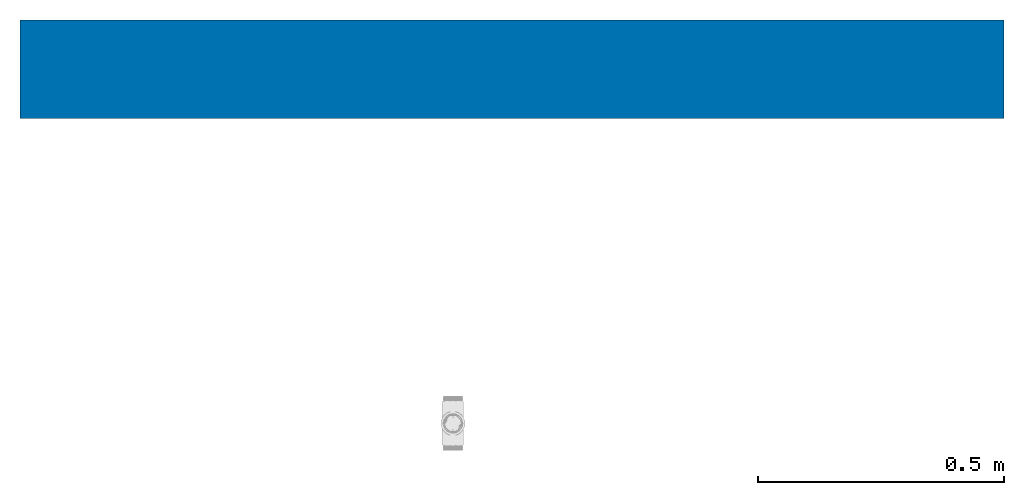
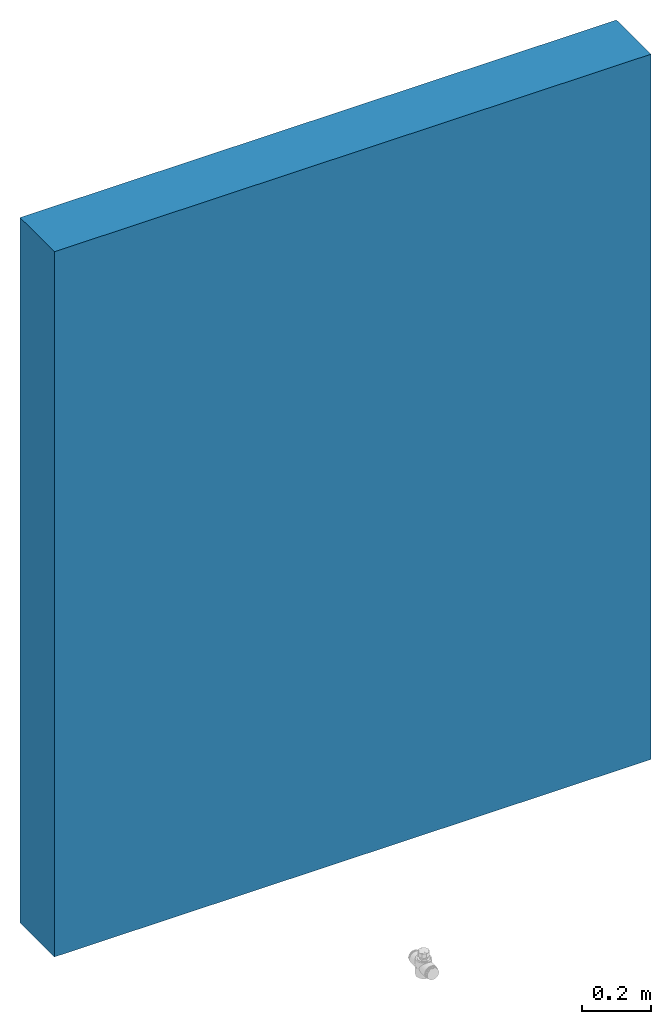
# One storey, incomplete: 1 wall.
"""IFC2X3 building model written with IfcOpenShell, lengths in millimetres."""

from ifc_helpers import new_model, entity, si_unit, converted_unit, frame, frame_2d, origin, place, context, project, spatial, rectangle, extrude, material, layer, layer_set, layer_usage, element, save


model = new_model("IFC2X3")

# Units and contexts
model_context = context("Model", 3, precision=1e-06, world=origin())
plan_context = context("Plan", 3, precision=1e-06, world=origin())
ifc_project = project(units=[si_unit("LENGTHUNIT", "METRE", prefix="MILLI"), si_unit("AREAUNIT", "SQUARE_METRE", prefix="MILLI"), si_unit("VOLUMEUNIT", "CUBIC_METRE", prefix="MILLI"), converted_unit("PLANEANGLEUNIT", "DEGREE", entity("IfcRatioMeasure", 0.01745329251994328), si_unit("PLANEANGLEUNIT", "RADIAN"), dimensions=[0, 0, 0, 0, 0, 0, 0]), si_unit("TIMEUNIT", "SECOND")], contexts=[model_context, plan_context])

# Site, building, storey
site_placement = place(None, origin())
site = spatial("IfcSite", under=ifc_project, at=site_placement, Name="Default", CompositionType="ELEMENT")
building_placement = place(site_placement, origin())
building = spatial("IfcBuilding", under=site, at=building_placement, CompositionType="ELEMENT")
storey_placement = place(building_placement, origin())
storey = spatial("IfcBuildingStorey", under=building, at=storey_placement, Name="Level 1", CompositionType="ELEMENT", Elevation=0.0)

# Wall
ifc_material = material(Name="Default Wall")
ifc_layer = layer(ifc_material, 200.0)
ifc_layer_set = layer_set([ifc_layer], Name="Basic Wall:Generic - 200mm")
ifc_layer_usage = layer_usage(ifc_layer_set, "AXIS2", "NEGATIVE", 100.0)
wall_placement = place(storey_placement, frame((-8133.340511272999, -8442.997041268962, 0.0)))
element("IfcWallStandardCase", 1, at=wall_placement, inside=storey, material=ifc_layer_usage, Name="Basic Wall:Generic - 200mm", ObjectType="Basic Wall:Generic - 200mm:398", context=model_context, shape_type="SweptSolid", body=[
    extrude(rectangle(XDim=2000.000000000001, YDim=200.0, at=frame_2d((1000.0, 0.0), x_axis=(-1.0, 0.0))), origin(), (0.0, 0.0, 1.0), 2500.0),
])

save(model, "model.ifc")
